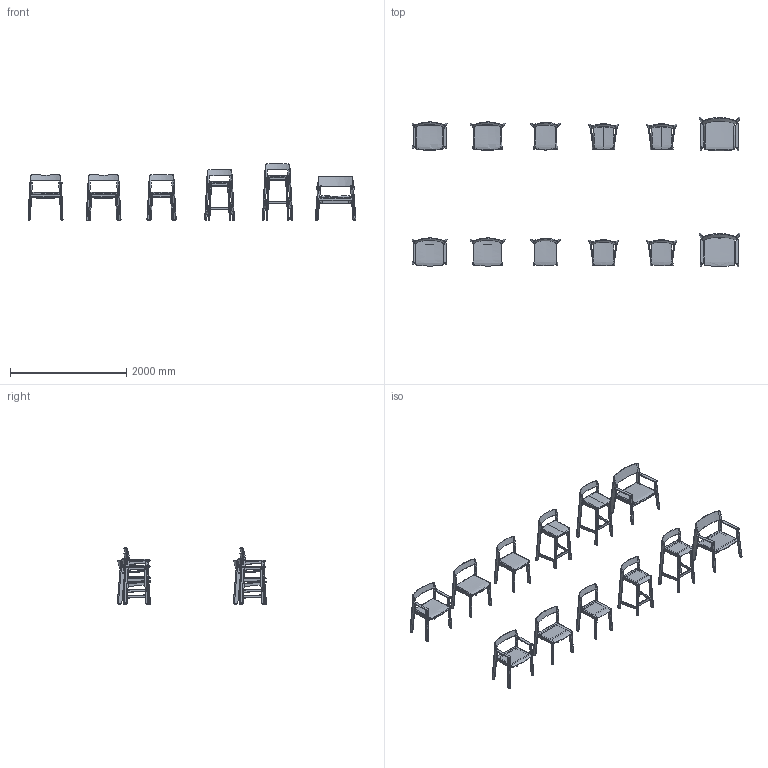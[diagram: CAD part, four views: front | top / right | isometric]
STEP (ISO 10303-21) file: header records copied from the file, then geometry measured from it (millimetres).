
FILE_DESCRIPTION(/* description */ (''),/* implementation_level */ '2;1');
FILE_NAME(/* name */ 'TRUE_Lisa_3D_2',/* time_stamp */ '2026-07-24T12:19:15+02:00',/* author */ (''),/* organization */ (''),/* preprocessor_version */ 'ST-DEVELOPER v16.5',/* originating_system */ '',/* authorisation */ '');
FILE_SCHEMA (('CONFIG_CONTROL_DESIGN'));
Products named in the file (1): Document
Bounding box: 5651.97 x 2577.34 x 972.27 mm (x, y, z)
Volume: 110446326.8 mm3; surface area: 17888692.9 mm2
Topology: 244 solids, 256 shells, 1672 faces, 3550 edges, 2346 vertices
Faces by surface type: plane 932, cylinder 426, bspline 314
Entity records: 245503 total; most frequent: CARTESIAN_POINT 220759, ORIENTED_EDGE 6963, EDGE_CURVE 3538, VERTEX_POINT 2322, B_SPLINE_CURVE_WITH_KNOTS 2058, EDGE_LOOP 1680, ADVANCED_FACE 1672, FACE_OUTER_BOUND 1672
